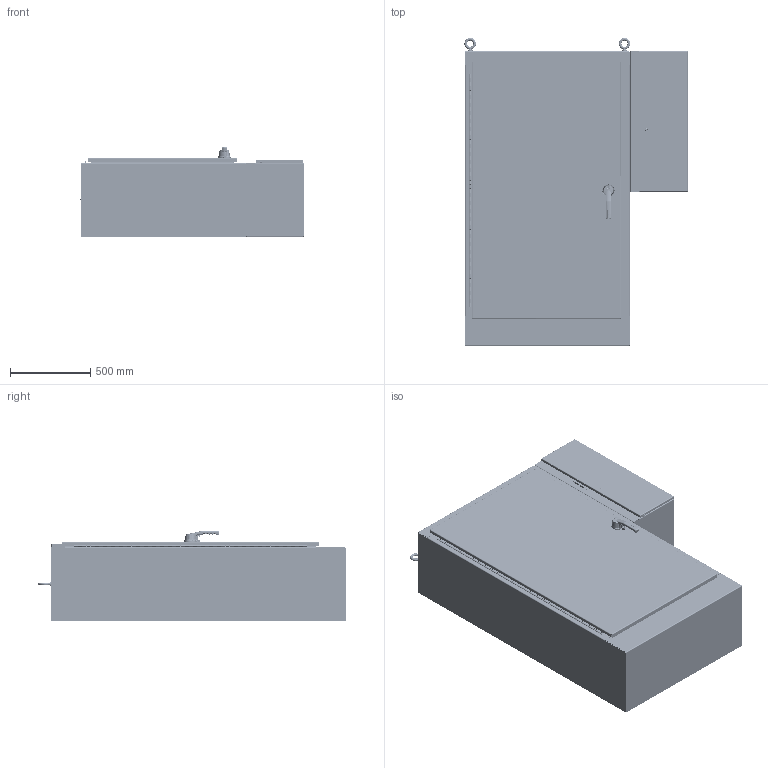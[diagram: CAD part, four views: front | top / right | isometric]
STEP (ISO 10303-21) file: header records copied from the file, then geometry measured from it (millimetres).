
FILE_DESCRIPTION (( 'STEP AP203' ), '1' );
FILE_NAME ('27932.step', '2015-01-12T13:01:50', ( 'admin' ), ( '' ), 'SwSTEP 2.0', 'SolidWorks 2010', '' );
FILE_SCHEMA (( 'CONFIG_CONTROL_DESIGN' ));
Products named in the file (108): 27932; 89109476; 87921202; 89079682; 87921186; 11158129_11158129; 89109068; 89109067; 99411211; 89079771; 87921146; 89079772; 87921122; 99402203_99402203; 27104003; 22112003_AFTER WELD; 32216001; 87573197; 87932883; 89079764; 87921282; 11158084; 99412095; 27301002; 26173002; 87751114_87751114; 89109477; 89109478_87924448; 26274015_26274015; 26273015_26273015; 27115001; 22318002; 27115004; 99401452; 23418001; 87567402_87567402; 87567417; 27155001; 87567421; 87566030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
Assembly tree (165 placements, depth 6):
  27932
    26274015_26274015  x2
      22318002
      26273015_26273015
      30101003
      27115001
    99401452  x2
    17184_BBD
      87923729_18in
      87930615  x3
        87929769_Installed on Pin
        87928711
      89076399  x3
        89056623
        89076193
      87543026  x3
      87923733
      89108412
        89108417
          99401226_After Weld
          89108418
        89108415
          45176001_45176001  x12
          99401226_After Weld  x6
          89108416
        89108413_87924180
          23271002_After Weld  x6
          89108414
      89111814
        89110590
        89110594_CLOSED
          99411834  x2
          64103001  x4
          89110591
          64207001  x2
          64102001
            64208001
            64210001
            64202001
            87540678
            87541994_Installed Height
            64205001  x2
            87541995
          89110592
        89111815
          99401226_After Weld
          89108546_87924448
          89108545_87952731
          89111816
        89101116
        64138001  x2
    27115004  x2
    11358033
      11358034
        30231005
          99404252
          99401524
          30231001
        26151006
        89117596
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Bounding box: 1386.71 x 1914.78 x 559.61 mm (x, y, z)
Volume: 22895205.5 mm3; surface area: 19588168.4 mm2
Topology: 151 solids, 151 shells, 9667 faces, 24717 edges, 15614 vertices
Faces by surface type: plane 4032, cylinder 2377, bspline 2112, torus 744, cone 325, sphere 77
Entity records: 336011 total; most frequent: CARTESIAN_POINT 158213, ORIENTED_EDGE 37120, DIRECTION 29289, EDGE_CURVE 18560, VERTEX_POINT 11808, VECTOR 10079, LINE 10079, AXIS2_PLACEMENT_3D 9605
